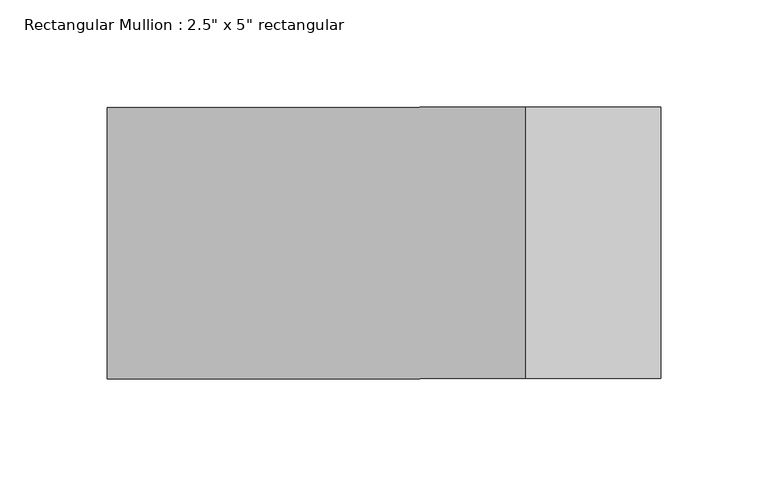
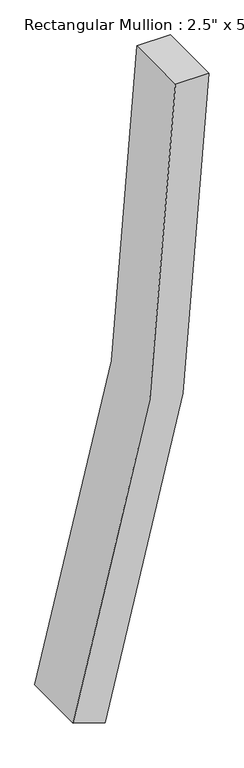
"""IFC4 building model written with IfcOpenShell, lengths in millimetres: member geometry."""

from ifc_helpers import new_model, si_unit, point, frame, frame_2d, origin, place, context, project, spatial, polyline, circle_curve, trimmed, segment, composite_curve, outline, extrude, source, transform, mapped, element, save


def member_7098706b(model_context):
    return source(origin(), model_context, "Body", "SweptSolid", [
        extrude(outline(composite_curve([segment(trimmed(circle_curve(frame_2d((0.0, -3962.4)), 3962.4), [point((-1238.1305884, -198.4065879))], [point((0.0, 0.0))], False, "CARTESIAN"), True, "CONTINUOUS"), segment(polyline([(0.0, 0.0), (0.0, -63.5)]), True, "CONTINUOUS"), segment(trimmed(circle_curve(frame_2d((0.0, -3962.4)), 3898.9), [point((0.0, -63.5))], [point((-1218.288752, -258.7269952))], True, "CARTESIAN"), True, "CONTINUOUS"), segment(polyline([(-1218.288752, -258.7269952), (-1238.1305884, -198.4065879)]), True, "CONTINUOUS")], self_intersect=False)), frame((0.0, -63.5, 0.0), z_axis=(0.0, 1.0, 0.0), x_axis=(0.0, 0.0, 1.0)), (0.0, 0.0, 1.0), 127.0),
    ])


if __name__ == "__main__":
    model = new_model("IFC4")
    model_context = context("Model", 3, world=origin())
    ifc_project = project(units=[si_unit("LENGTHUNIT", "METRE", prefix="MILLI")], contexts=[model_context])
    site = spatial("IfcSite", under=ifc_project)
    building = spatial("IfcBuilding", under=site)
    placement = place(None, origin())
    member_shape = member_7098706b(model_context)
    element("IfcMember", 1, ObjectType="Rectangular Mullion : 2.5\" x 5\" rectangular", at=placement, inside=building, context=model_context, shape_type="MappedRepresentation", body=[
        mapped(member_shape, transform((0.0, 0.0, 0.0), x_axis=(1.0, 0.0, 0.0), y_axis=(0.0, 1.0, 0.0), z_axis=(0.0, 0.0, 1.0))),
    ])
    save(model, "model.ifc")
